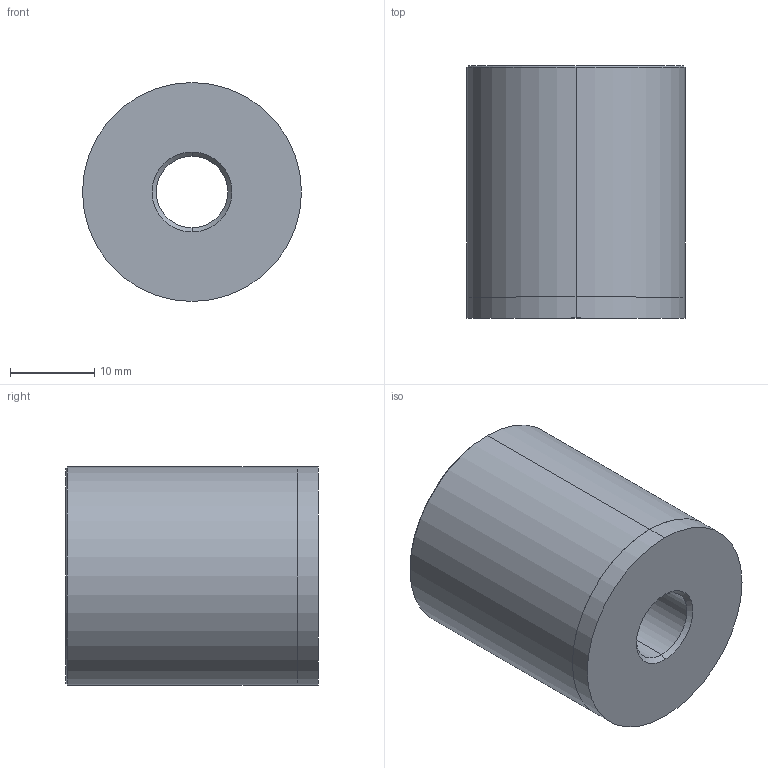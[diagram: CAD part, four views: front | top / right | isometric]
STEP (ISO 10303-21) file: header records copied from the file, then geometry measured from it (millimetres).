
FILE_DESCRIPTION (( 'STEP AP214' ), '1' );
FILE_NAME ('R05_26x030.STEP', '2020-03-20T00:02:19', ( '' ), ( '' ), 'SwSTEP 2.0', 'SolidWorks 2014', '' );
FILE_SCHEMA (( 'AUTOMOTIVE_DESIGN' ));
Length unit declared in the file: millimetre
Products named in the file (1): R05_26x030
Bounding box: 26.02 x 30 x 26.02 mm (x, y, z)
Volume: 8849 mm3; surface area: 4792.9 mm2
Topology: 1 solids, 1 shells, 19 faces, 38 edges, 22 vertices
Faces by surface type: cone 8, cylinder 8, plane 3
Entity records: 554 total; most frequent: DIRECTION 100, CARTESIAN_POINT 80, ORIENTED_EDGE 76, AXIS2_PLACEMENT_3D 42, EDGE_CURVE 38, VERTEX_POINT 22, CIRCLE 22, EDGE_LOOP 22
